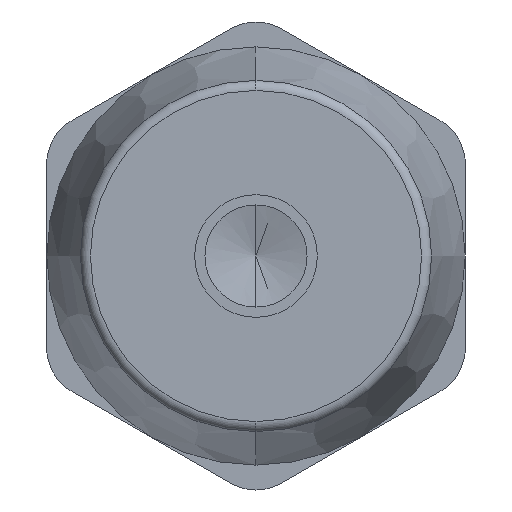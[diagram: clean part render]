
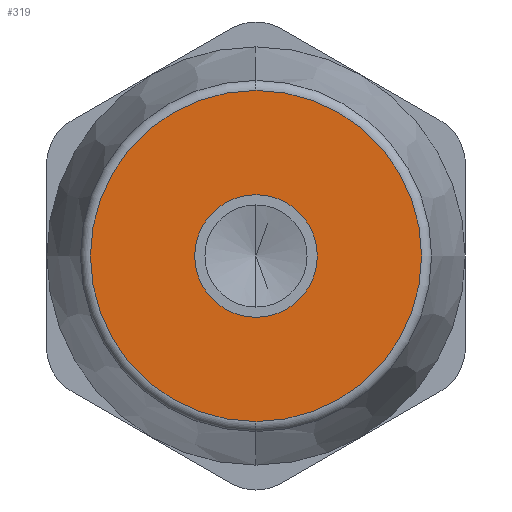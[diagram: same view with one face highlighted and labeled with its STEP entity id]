
A CAD part, front view. The second image highlights one B-rep face of the part: STEP entity #319.
In plain terms, the highlighted planar face has unit normal (0, -1, 0).
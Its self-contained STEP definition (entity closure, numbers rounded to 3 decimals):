
#70 = DIRECTION ( 'NONE',  ( 0., 1., 0. ) ) ;
#239 = CIRCLE ( 'NONE', #980, 6. ) ;
#255 = CARTESIAN_POINT ( 'NONE',  ( 20.5, 0., -11.836 ) ) ;
#277 = CARTESIAN_POINT ( 'NONE',  ( 0., 0., -16.205 ) ) ;
#300 = VERTEX_POINT ( 'NONE', #277 ) ;
#303 = CARTESIAN_POINT ( 'NONE',  ( 0., 0., 16.205 ) ) ;
#314 = EDGE_CURVE ( 'NONE', #1410, #485, #1565, .T. ) ;
#319 = ADVANCED_FACE ( 'NONE', ( #594, #738 ), #429, .F. ) ;
#418 = EDGE_LOOP ( 'NONE', ( #1272, #440 ) ) ;
#429 = PLANE ( 'NONE',  #1466 ) ;
#440 = ORIENTED_EDGE ( 'NONE', *, *, #1403, .T. ) ;
#450 = DIRECTION ( 'NONE',  ( 0., 1., 0. ) ) ;
#483 = DIRECTION ( 'NONE',  ( 0., 0., 1. ) ) ;
#485 = VERTEX_POINT ( 'NONE', #510 ) ;
#510 = CARTESIAN_POINT ( 'NONE',  ( -6., 0., 0. ) ) ;
#530 = CARTESIAN_POINT ( 'NONE',  ( 0., 0., 0. ) ) ;
#549 = DIRECTION ( 'NONE',  ( -1., 0., 0. ) ) ;
#553 = AXIS2_PLACEMENT_3D ( 'NONE', #1778, #1116, #483 ) ;
#594 = FACE_BOUND ( 'NONE', #1696, .T. ) ;
#609 = EDGE_CURVE ( 'NONE', #485, #1410, #239, .T. ) ;
#738 = FACE_OUTER_BOUND ( 'NONE', #418, .T. ) ;
#776 = CARTESIAN_POINT ( 'NONE',  ( 0., 0., 0. ) ) ;
#910 = AXIS2_PLACEMENT_3D ( 'NONE', #1224, #450, #2004 ) ;
#980 = AXIS2_PLACEMENT_3D ( 'NONE', #530, #70, #549 ) ;
#1011 = CIRCLE ( 'NONE', #1082, 16.205 ) ;
#1070 = VERTEX_POINT ( 'NONE', #303 ) ;
#1082 = AXIS2_PLACEMENT_3D ( 'NONE', #776, #1249, #1415 ) ;
#1116 = DIRECTION ( 'NONE',  ( 0., -1., 0. ) ) ;
#1224 = CARTESIAN_POINT ( 'NONE',  ( 0., 0., 0. ) ) ;
#1237 = ORIENTED_EDGE ( 'NONE', *, *, #314, .T. ) ;
#1249 = DIRECTION ( 'NONE',  ( 0., -1., 0. ) ) ;
#1272 = ORIENTED_EDGE ( 'NONE', *, *, #1844, .T. ) ;
#1299 = CIRCLE ( 'NONE', #553, 16.205 ) ;
#1403 = EDGE_CURVE ( 'NONE', #300, #1070, #1299, .T. ) ;
#1407 = DIRECTION ( 'NONE',  ( 0., 0., 1. ) ) ;
#1410 = VERTEX_POINT ( 'NONE', #1616 ) ;
#1415 = DIRECTION ( 'NONE',  ( 0., 0., 1. ) ) ;
#1466 = AXIS2_PLACEMENT_3D ( 'NONE', #255, #1852, #1407 ) ;
#1565 = CIRCLE ( 'NONE', #910, 6. ) ;
#1616 = CARTESIAN_POINT ( 'NONE',  ( 6., 0., 0. ) ) ;
#1696 = EDGE_LOOP ( 'NONE', ( #2026, #1237 ) ) ;
#1778 = CARTESIAN_POINT ( 'NONE',  ( 0., 0., 0. ) ) ;
#1844 = EDGE_CURVE ( 'NONE', #1070, #300, #1011, .T. ) ;
#1852 = DIRECTION ( 'NONE',  ( 0., 1., 0. ) ) ;
#2004 = DIRECTION ( 'NONE',  ( -1., 0., 0. ) ) ;
#2026 = ORIENTED_EDGE ( 'NONE', *, *, #609, .T. ) ;
